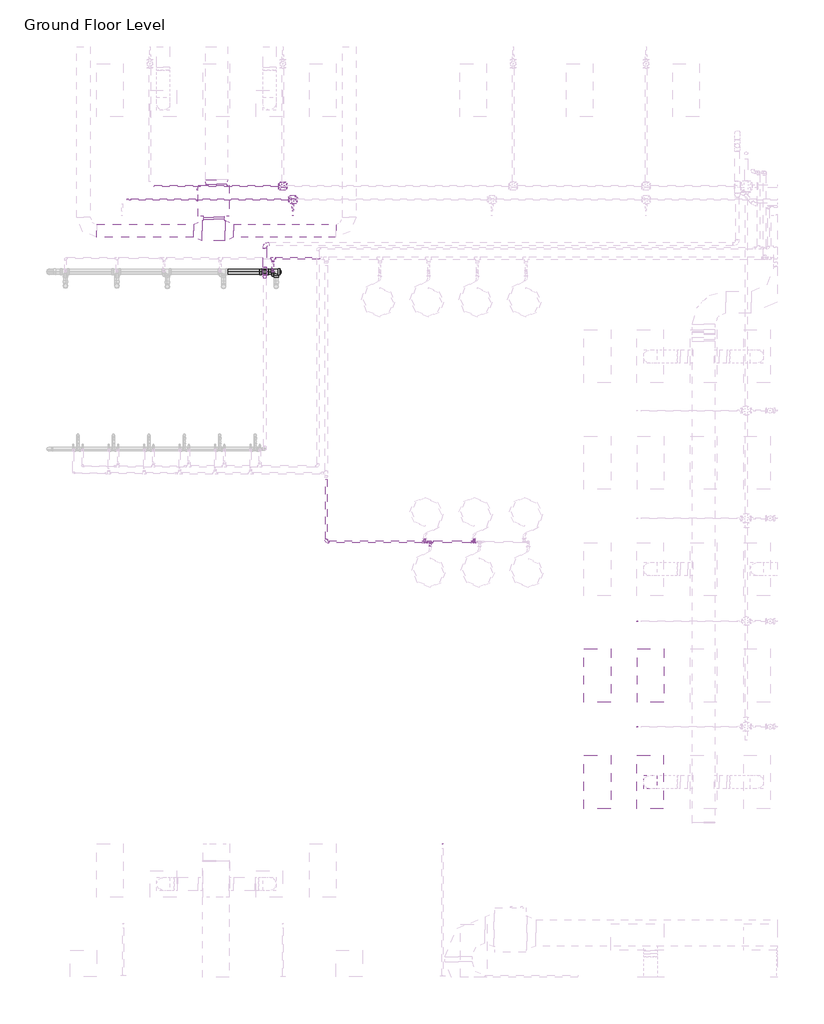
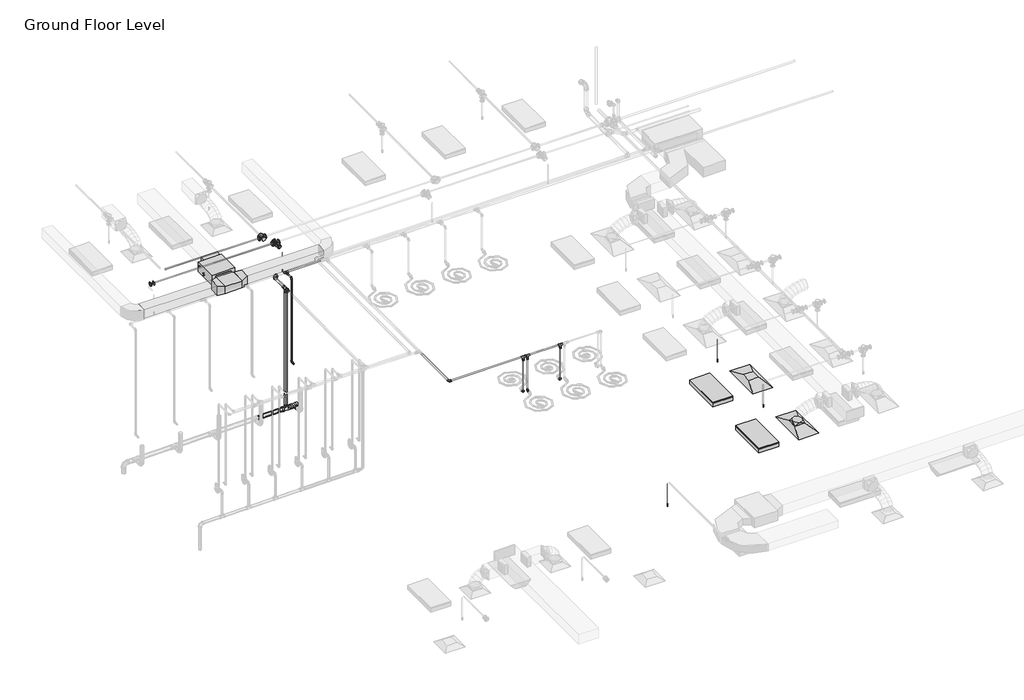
# One storey, part 42 of 66: 27 pipe segments, 24 pipe fittings, 5 duct fittings, 4 fire suppression terminals, 3 duct segments, 2 air terminals, 2 light fixtures, 1 proxy.
"""IFC4 building model written with IfcOpenShell, lengths in millimetres."""

from ifc_helpers import new_model, si_unit, point, frame, frame_2d, origin, place, context, project, spatial, polyline, circle_curve, trimmed, segment, composite_curve, outline, extrude, transform, mapped, element, save
from components import m_return_diffuser_1200x600_1200_x_600_face_300_x_300_d1983ef6, fcu_daikin_iu_bad131e0, m_rectangular_tee_standard_fa4de0e8, m_rectangular_transition_angle_45_degree_5a11b24e, m_rectangular_transition_angle_45_degree_6e5ad010, m_rectangular_to_round_transition_angle_45_degree_641efff0, m_sprinkler_dry_pendent_hosted_15_mm_dry_pendent_9bda8e11, m_sprinkler_pendent_15_mm_pendent_06fcbd8e, m_troffer_light_parabolic_rectangular1_0600x1200mm_4_lamp_86473d4a, m_bend_pvc_sch_40_dwv_standard_1fdc8943, m_plug_pvc_sch_40_dwv_standard_6c40de1c, m_reducer_flanged_cs_class_150_standard_ccf252ad, m_reducer_pvc_sch_40_dwv_standard_d6f2da47, m_tee_reducing_sanitary_pvc_sch_40_dwv_standard_b49161a9, m_tee_reducing_sanitary_pvc_sch_40_dwv_standard_35af4ecc, m_tee_reducing_sanitary_pvc_sch_40_dwv_standard_9cd1363b, m_tee_round_base_flanged_cs_class_150_standard_7e5987a1, standard_517a5a8d, standard_08ff6011, standard_d0d0b892, standard_69e4ce0e

model = new_model("IFC4")

# Units and contexts
model_context = context("Model", 3, world=origin())
ifc_project = project(units=[si_unit("LENGTHUNIT", "METRE", prefix="MILLI")], contexts=[model_context])

# Site, building, storey
site = spatial("IfcSite", under=ifc_project)
building = spatial("IfcBuilding", under=site)
storey = spatial("IfcBuildingStorey", under=building, Name="Ground Floor Level", Elevation=900.0)

# Air terminals
placement = place(None, origin())
m_return_diffuser_1200x600_1200_x_600_face_300_x_300_shape = m_return_diffuser_1200x600_1200_x_600_face_300_x_300_d1983ef6(model_context)
element("IfcAirTerminal", 1, ObjectType="M_Return Diffuser 1200x600 : 1200 x 600 Face 300 x 300 Connection", at=placement, inside=storey, context=model_context, shape_type="MappedRepresentation", body=[
    mapped(m_return_diffuser_1200x600_1200_x_600_face_300_x_300_shape, transform((-8137.2327605, 4035.2153534, 3650.0), x_axis=(0.0, 1.0, 0.0), y_axis=(-1.0, 0.0, 0.0), z_axis=(0.0, 0.0, 1.0))),
])
element("IfcAirTerminal", 2, ObjectType="M_Supply Diffuser 1200x600 : 1200 x 600 Face 300 x 300 Connection", at=placement, inside=storey, context=model_context, shape_type="MappedRepresentation", body=[
    mapped(m_return_diffuser_1200x600_1200_x_600_face_300_x_300_shape, transform((-8142.6846929, 1635.2153534, 3650.0), x_axis=(0.0, 1.0, 0.0), y_axis=(-1.0, 0.0, 0.0), z_axis=(0.0, 0.0, 1.0))),
])

# Proxy
fcu_daikin_iu_shape = fcu_daikin_iu_bad131e0(model_context)
element("IfcBuildingElementProxy", 3, Name="FCU-DAIKIN IU : 4.5kW, 230V/50Hz/1Ph", ObjectType="FCU-DAIKIN IU : 4.5kW, 230V/50Hz/1Ph", at=placement, inside=storey, context=model_context, shape_type="MappedRepresentation", body=[
    mapped(fcu_daikin_iu_shape, transform((-17997.2327605, 14745.2153534, 3934.0881511), x_axis=(-1.0, 0.0, 0.0), y_axis=(0.0, -1.0, 0.0), z_axis=(0.0, 0.0, 1.0))),
])

# Duct fittings
m_rectangular_tee_standard_shape = m_rectangular_tee_standard_fa4de0e8(model_context)
element("IfcDuctFitting", 4, ObjectType="M_Rectangular Tee : Standard", at=placement, inside=storey, context=model_context, shape_type="MappedRepresentation", body=[
    mapped(m_rectangular_tee_standard_shape, transform((-17997.2327605, 14069.8153534, 4075.2881511), x_axis=(-1.0, 0.0, 0.0), y_axis=(0.0, -1.0, 0.0), z_axis=(0.0, 0.0, 1.0))),
])
m_rectangular_transition_angle_45_degree_shape = m_rectangular_transition_angle_45_degree_5a11b24e(model_context)
element("IfcDuctFitting", 5, ObjectType="M_Rectangular Transition - Angle : 45 Degree", at=placement, inside=storey, context=model_context, shape_type="MappedRepresentation", body=[
    mapped(m_rectangular_transition_angle_45_degree_shape, transform((-17933.7327605, 15120.6153534, 4100.0006511), x_axis=(0.0, 1.0, 0.0), y_axis=(-1.0, 0.0, 0.0), z_axis=(0.0, 0.0, 1.0))),
])
m_rectangular_transition_angle_45_degree_2_shape = m_rectangular_transition_angle_45_degree_6e5ad010(model_context)
element("IfcDuctFitting", 6, ObjectType="M_Rectangular Transition - Angle : 45 Degree", at=placement, inside=storey, context=model_context, shape_type="MappedRepresentation", body=[
    mapped(m_rectangular_transition_angle_45_degree_2_shape, transform((-17741.2952605, 14069.8153534, 4075.2881511), x_axis=(1.0, 0.0, 0.0), y_axis=(0.0, 1.0, 0.0), z_axis=(0.0, 0.0, 1.0))),
])
element("IfcDuctFitting", 7, ObjectType="M_Rectangular Transition - Angle : 45 Degree", at=placement, inside=storey, context=model_context, shape_type="MappedRepresentation", body=[
    mapped(m_rectangular_transition_angle_45_degree_2_shape, transform((-18253.1702605, 14069.8153534, 4075.2881511), x_axis=(-1.0, 0.0, 0.0), y_axis=(0.0, -1.0, 0.0), z_axis=(0.0, 0.0, 1.0))),
])
m_rectangular_to_round_transition_angle_45_degree_shape = m_rectangular_to_round_transition_angle_45_degree_641efff0(model_context)
element("IfcDuctFitting", 8, ObjectType="M_Rectangular to Round Transition - Angle : 45 Degree", at=placement, inside=storey, context=model_context, shape_type="MappedRepresentation", body=[
    mapped(m_rectangular_to_round_transition_angle_45_degree_shape, transform((-8142.6846929, 1635.2153534, 3751.6), x_axis=(0.0, 0.0, 1.0), y_axis=(-1.0, 0.0, 0.0), z_axis=(0.0, -1.0, 0.0))),
])

# Duct segments
element("IfcDuctSegment", 9, ObjectType="Radius Elbows / Taps", at=placement, inside=storey, context=model_context, shape_type="SweptSolid", body=[
    extrude(outline(polyline([(-18228.1702605, 14369.8153534), (-17766.2952605, 14369.8153534), (-17766.2952605, 14325.7528534), (-18228.1702605, 14325.7528534), (-18228.1702605, 14369.8153534)])), frame((0.0, 0.0, 3968.1381511), z_axis=(0.0, 0.0, 1.0), x_axis=(1.0, 0.0, 0.0)), (0.0, 0.0, 1.0), 214.3),
])
element("IfcDuctSegment", 10, ObjectType="Radius Elbows / Taps", at=placement, inside=storey, context=model_context, shape_type="SweptSolid", body=[
    extrude(outline(polyline([(-17545.8948503, 13919.8153534), (-17545.8948503, 14219.8153534), (-15237.2327605, 14219.8153534), (-15237.2327605, 13919.8153534), (-17545.8948503, 13919.8153534)])), frame((0.0, 0.0, 3925.2881511), z_axis=(0.0, 0.0, 1.0), x_axis=(1.0, 0.0, 0.0)), (0.0, 0.0, 1.0), 300.0),
])
element("IfcDuctSegment", 11, ObjectType="Radius Elbows / Taps", at=placement, inside=storey, context=model_context, shape_type="SweptSolid", body=[
    extrude(outline(polyline([(-18448.5706707, 14219.8153534), (-18448.5706707, 13919.8153534), (-20637.2327605, 13919.8153534), (-20637.2327605, 14219.8153534), (-18448.5706707, 14219.8153534)])), frame((0.0, 0.0, 3925.2881511), z_axis=(0.0, 0.0, 1.0), x_axis=(1.0, 0.0, 0.0)), (0.0, 0.0, 1.0), 300.0),
])

# Fire suppression terminals
m_sprinkler_dry_pendent_hosted_15_mm_dry_pendent_shape = m_sprinkler_dry_pendent_hosted_15_mm_dry_pendent_9bda8e11(model_context)
element("IfcFireSuppressionTerminal", 12, ObjectType="M_Sprinkler - Dry - Pendent - Hosted : 15 mm Dry Pendent", at=placement, inside=storey, context=model_context, shape_type="MappedRepresentation", body=[
    mapped(m_sprinkler_dry_pendent_hosted_15_mm_dry_pendent_shape, transform((-8437.2327605, 5261.0372753, 3650.0), x_axis=(1.0, 0.0, 0.0), y_axis=(0.0, -1.0, 0.0), z_axis=(0.0, 0.0, -1.0))),
])
element("IfcFireSuppressionTerminal", 13, ObjectType="M_Sprinkler - Dry - Pendent - Hosted : 15 mm Dry Pendent", at=placement, inside=storey, context=model_context, shape_type="MappedRepresentation", body=[
    mapped(m_sprinkler_dry_pendent_hosted_15_mm_dry_pendent_shape, transform((-8437.2327605, 2881.5134565, 3650.0), x_axis=(1.0, 0.0, 0.0), y_axis=(0.0, -1.0, 0.0), z_axis=(0.0, 0.0, -1.0))),
])
element("IfcFireSuppressionTerminal", 14, ObjectType="M_Sprinkler - Dry - Pendent - Hosted : 15 mm Dry Pendent", at=placement, inside=storey, context=model_context, shape_type="MappedRepresentation", body=[
    mapped(m_sprinkler_dry_pendent_hosted_15_mm_dry_pendent_shape, transform((-12837.2327605, 235.2153534, 3650.0), x_axis=(1.0, 0.0, 0.0), y_axis=(0.0, -1.0, 0.0), z_axis=(0.0, 0.0, -1.0))),
])
m_sprinkler_pendent_15_mm_pendent_shape = m_sprinkler_pendent_15_mm_pendent_06fcbd8e(model_context)
element("IfcFireSuppressionTerminal", 15, ObjectType="M_Sprinkler - Pendent : 15 mm Pendent", at=placement, inside=storey, context=model_context, shape_type="MappedRepresentation", body=[
    mapped(m_sprinkler_pendent_15_mm_pendent_shape, transform((-16210.1138499, 14412.7243649, 3650.0), x_axis=(1.0, 0.0, 0.0), y_axis=(0.0, 1.0, 0.0), z_axis=(0.0, 0.0, 1.0))),
])

# Light fixtures
m_troffer_light_parabolic_rectangular1_0600x1200mm_4_lamp_shape = m_troffer_light_parabolic_rectangular1_0600x1200mm_4_lamp_86473d4a(model_context)
element("IfcLightFixture", 16, ObjectType="M_Troffer Light - Parabolic Rectangular1 : 0600x1200mm(4 Lamp) - 277V 2", at=placement, inside=storey, context=model_context, shape_type="MappedRepresentation", body=[
    mapped(m_troffer_light_parabolic_rectangular1_0600x1200mm_4_lamp_shape, transform((-9396.6986926, 4053.918855, 3650.0), x_axis=(0.0, 1.0, 0.0), y_axis=(-1.0, 0.0, 0.0), z_axis=(0.0, 0.0, 1.0))),
])
element("IfcLightFixture", 17, ObjectType="M_Troffer Light - Parabolic Rectangular1 : 0600x1200mm(4 Lamp) - 277V 2", at=placement, inside=storey, context=model_context, shape_type="MappedRepresentation", body=[
    mapped(m_troffer_light_parabolic_rectangular1_0600x1200mm_4_lamp_shape, transform((-9396.6986926, 1653.918855, 3650.0), x_axis=(0.0, 1.0, 0.0), y_axis=(-1.0, 0.0, 0.0), z_axis=(0.0, 0.0, 1.0))),
])

# Pipe fittings
m_bend_pvc_sch_40_dwv_standard_shape = m_bend_pvc_sch_40_dwv_standard_1fdc8943(model_context)
element("IfcPipeFitting", 18, ObjectType="M_Bend - PVC - Sch 40 - DWV : Standard", at=placement, inside=storey, context=model_context, shape_type="MappedRepresentation", body=[
    mapped(m_bend_pvc_sch_40_dwv_standard_shape, transform((-16844.3158637, 13768.8048932, 4050.2768363), x_axis=(-0.9999500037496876, 0.0, -0.009999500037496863), y_axis=(0.0, -1.0, 0.0), z_axis=(-0.009999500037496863, 0.0, 0.9999500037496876))),
])
m_plug_pvc_sch_40_dwv_standard_shape = m_plug_pvc_sch_40_dwv_standard_6c40de1c(model_context)
element("IfcPipeFitting", 19, ObjectType="M_Plug - PVC - Sch 40 - DWV : Standard", at=placement, inside=storey, context=model_context, shape_type="MappedRepresentation", body=[
    mapped(m_plug_pvc_sch_40_dwv_standard_shape, transform((-16497.5246709, 13143.7240477, 252.0903992), x_axis=(0.9999500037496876, 0.0, 0.009999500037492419), y_axis=(0.0, 1.0, 0.0), z_axis=(-0.009999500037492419, 0.0, 0.9999500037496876))),
])
m_reducer_flanged_cs_class_150_standard_shape = m_reducer_flanged_cs_class_150_standard_ccf252ad(model_context)
element("IfcPipeFitting", 20, ObjectType="M_Reducer - Flanged - CS - Class 150 : Standard", at=placement, inside=storey, context=model_context, shape_type="MappedRepresentation", body=[
    mapped(m_reducer_flanged_cs_class_150_standard_shape, transform((-19856.6717995, 14773.4681847, 4291.0943441), x_axis=(-1.0, 0.0, 0.0), y_axis=(0.0, -1.0, 0.0), z_axis=(0.0, 0.0, 1.0))),
])
element("IfcPipeFitting", 21, ObjectType="M_Reducer - Flanged - CS - Class 150 : Standard", at=placement, inside=storey, context=model_context, shape_type="MappedRepresentation", body=[
    mapped(m_reducer_flanged_cs_class_150_standard_shape, transform((-16210.1138499, 14672.759591, 4291.0943441), x_axis=(0.0, -1.0, 0.0), y_axis=(1.0, 0.0, 0.0), z_axis=(0.0, 0.0, 1.0))),
])
m_reducer_pvc_sch_40_dwv_standard_shape = m_reducer_pvc_sch_40_dwv_standard_d6f2da47(model_context)
element("IfcPipeFitting", 22, ObjectType="M_Reducer - PVC - Sch 40 - DWV : Standard", at=placement, inside=storey, context=model_context, shape_type="MappedRepresentation", body=[
    mapped(m_reducer_pvc_sch_40_dwv_standard_shape, transform((-16844.3158637, 13068.078397, 4049.9889294), x_axis=(0.0, -0.9999576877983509, -0.009199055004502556), y_axis=(1.0000000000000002, 0.0, 0.0), z_axis=(0.0, -0.009199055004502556, 0.9999576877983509))),
])
m_tee_reducing_sanitary_pvc_sch_40_dwv_standard_shape = m_tee_reducing_sanitary_pvc_sch_40_dwv_standard_b49161a9(model_context)
element("IfcPipeFitting", 23, ObjectType="M_Tee Reducing Sanitary - PVC - Sch 40 - DWV : Standard", at=placement, inside=storey, context=model_context, shape_type="MappedRepresentation", body=[
    mapped(m_tee_reducing_sanitary_pvc_sch_40_dwv_standard_shape, transform((-16586.4202262, 13143.7240477, 251.2014437), x_axis=(0.9999500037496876, 0.0, 0.009999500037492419), y_axis=(0.0, 1.0, 0.0), z_axis=(-0.009999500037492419, 0.0, 0.9999500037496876))),
])
m_tee_reducing_sanitary_pvc_sch_40_dwv_standard_2_shape = m_tee_reducing_sanitary_pvc_sch_40_dwv_standard_35af4ecc(model_context)
element("IfcPipeFitting", 24, ObjectType="M_Tee Reducing Sanitary - PVC - Sch 40 - DWV : Standard", at=placement, inside=storey, context=model_context, shape_type="MappedRepresentation", body=[
    mapped(m_tee_reducing_sanitary_pvc_sch_40_dwv_standard_2_shape, transform((-16844.3824695, 13143.7240477, 248.6218212), x_axis=(0.9999500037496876, 0.0, 0.00999950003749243), y_axis=(0.00999950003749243, 0.0, -0.9999500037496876), z_axis=(0.0, 1.0, 0.0))),
])
m_tee_reducing_sanitary_pvc_sch_40_dwv_standard_3_shape = m_tee_reducing_sanitary_pvc_sch_40_dwv_standard_9cd1363b(model_context)
element("IfcPipeFitting", 25, ObjectType="M_Tee Reducing Sanitary - PVC - Sch 40 - DWV : Standard", at=placement, inside=storey, context=model_context, shape_type="MappedRepresentation", body=[
    mapped(m_tee_reducing_sanitary_pvc_sch_40_dwv_standard_3_shape, transform((-16844.3158637, 13143.7240477, 4050.2768363), x_axis=(0.0, -1.0, 0.0), y_axis=(-2.9192257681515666e-06, 0.0, 0.9999999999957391), z_axis=(-0.9999999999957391, 0.0, -2.9192257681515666e-06))),
])
m_tee_round_base_flanged_cs_class_150_standard_shape = m_tee_round_base_flanged_cs_class_150_standard_7e5987a1(model_context)
element("IfcPipeFitting", 26, ObjectType="M_Tee Round Base - Flanged - CS - Class 150 : Standard", at=placement, inside=storey, context=model_context, shape_type="MappedRepresentation", body=[
    mapped(m_tee_round_base_flanged_cs_class_150_standard_shape, transform((-16210.1138499, 14773.4681847, 4291.0943441), x_axis=(-1.0, 0.0, 0.0), y_axis=(0.0, 1.0, 0.0), z_axis=(0.0, 0.0, -1.0))),
])
element("IfcPipeFitting", 27, ObjectType="M_Tee Round Base - Flanged - CS - Class 150 : Standard", at=placement, inside=storey, context=model_context, shape_type="MappedRepresentation", body=[
    mapped(m_tee_round_base_flanged_cs_class_150_standard_shape, transform((-16437.2327605, 15073.2009828, 4360.0), x_axis=(-1.0, 0.0, 0.0), y_axis=(0.0, -1.0, 0.0), z_axis=(0.0, 0.0, 1.0))),
])
standard_shape = standard_517a5a8d(model_context)
element("IfcPipeFitting", 28, ObjectType="M_Elbow - CPVC - Sch 40 : Standard", at=placement, inside=storey, context=model_context, shape_type="MappedRepresentation", body=[
    mapped(standard_shape, transform((-16659.8589924, 13149.9865561, 4315.0), x_axis=(0.0, 0.0, 1.0), y_axis=(0.0, 1.0, 0.0), z_axis=(-1.0, 0.0, 0.0))),
])
element("IfcPipeFitting", 29, ObjectType="M_Elbow - CPVC - Sch 40 : Standard", at=placement, inside=storey, context=model_context, shape_type="MappedRepresentation", body=[
    mapped(standard_shape, transform((-16659.8589924, 13149.9865561, 1655.0), x_axis=(0.0, 0.0, -1.0), y_axis=(0.0, -1.0, 0.0), z_axis=(-1.0, 0.0, 0.0))),
])
element("IfcPipeFitting", 30, ObjectType="M_Elbow - CPVC - Sch 40 : Standard", at=placement, inside=storey, context=model_context, shape_type="MappedRepresentation", body=[
    mapped(standard_shape, transform((-13107.2327605, 7049.9865561, 3200.0), x_axis=(0.0, 0.0, -1.0), y_axis=(0.0, -1.0, 0.0), z_axis=(-1.0, 0.0, 0.0))),
])
element("IfcPipeFitting", 31, ObjectType="M_Elbow - CPVC - Sch 40 : Standard", at=placement, inside=storey, context=model_context, shape_type="MappedRepresentation", body=[
    mapped(standard_shape, transform((-13232.2327605, 7049.9865561, 3200.0), x_axis=(0.0, 0.0, -1.0), y_axis=(0.0, 1.0, 0.0), z_axis=(1.0, 0.0, 0.0))),
])
element("IfcPipeFitting", 32, ObjectType="M_Elbow - CPVC - Sch 40 : Standard", at=placement, inside=storey, context=model_context, shape_type="MappedRepresentation", body=[
    mapped(standard_shape, transform((-12122.2327605, 7049.9865561, 3200.0), x_axis=(0.0, 0.0, -1.0), y_axis=(0.0, 1.0, 0.0), z_axis=(1.0, 0.0, 0.0))),
])
standard_2_shape = standard_08ff6011(model_context)
element("IfcPipeFitting", 33, ObjectType="M_Tee - CPVC - Sch 40 : Standard", at=placement, inside=storey, context=model_context, shape_type="MappedRepresentation", body=[
    mapped(standard_2_shape, transform((-16659.8589924, 13449.9865561, 4315.0), x_axis=(-1.0, 0.0, 0.0), y_axis=(0.0, 1.0, 0.0), z_axis=(0.0, 0.0, -1.0))),
])
element("IfcPipeFitting", 34, ObjectType="M_Tee - CPVC - Sch 40 : Standard", at=placement, inside=storey, context=model_context, shape_type="MappedRepresentation", body=[
    mapped(standard_2_shape, transform((-13107.2327605, 7049.9865561, 4315.0), x_axis=(-1.0, 0.0, 0.0), y_axis=(0.0, 0.0, 1.0), z_axis=(0.0, 1.0, 0.0))),
])
element("IfcPipeFitting", 35, ObjectType="M_Tee - CPVC - Sch 40 : Standard", at=placement, inside=storey, context=model_context, shape_type="MappedRepresentation", body=[
    mapped(standard_2_shape, transform((-13232.2327605, 7049.9865561, 4315.0), x_axis=(-1.0, 0.0, 0.0), y_axis=(0.0, 0.0, 1.0), z_axis=(0.0, 1.0, 0.0))),
])
element("IfcPipeFitting", 36, ObjectType="M_Tee - CPVC - Sch 40 : Standard", at=placement, inside=storey, context=model_context, shape_type="MappedRepresentation", body=[
    mapped(standard_2_shape, transform((-12122.2327605, 7049.9865561, 4315.0), x_axis=(-1.0, 0.0, 0.0), y_axis=(0.0, 0.0, 1.0), z_axis=(0.0, 1.0, 0.0))),
])
standard_3_shape = standard_d0d0b892(model_context)
element("IfcPipeFitting", 37, ObjectType="M_Coupling Reducing - CPVC - Sch 40 : Standard", at=placement, inside=storey, context=model_context, shape_type="MappedRepresentation", body=[
    mapped(standard_3_shape, transform((-16659.8589924, 13396.0115561, 4315.0), x_axis=(0.0, -1.0, 0.0), y_axis=(1.0, 0.0, 0.0), z_axis=(0.0, 0.0, 1.0))),
])
element("IfcPipeFitting", 38, ObjectType="M_Coupling Reducing - CPVC - Sch 40 : Standard", at=placement, inside=storey, context=model_context, shape_type="MappedRepresentation", body=[
    mapped(standard_3_shape, transform((-13107.2327605, 7049.9865561, 4261.025), x_axis=(0.0, 0.0, -1.0), y_axis=(1.0, 0.0, 0.0), z_axis=(0.0, -1.0, 0.0))),
])
element("IfcPipeFitting", 39, ObjectType="M_Coupling Reducing - CPVC - Sch 40 : Standard", at=placement, inside=storey, context=model_context, shape_type="MappedRepresentation", body=[
    mapped(standard_3_shape, transform((-13232.2327605, 7049.9865561, 4261.025), x_axis=(0.0, 0.0, -1.0), y_axis=(-1.0, 0.0, 0.0), z_axis=(0.0, 1.0, 0.0))),
])
element("IfcPipeFitting", 40, ObjectType="M_Coupling Reducing - CPVC - Sch 40 : Standard", at=placement, inside=storey, context=model_context, shape_type="MappedRepresentation", body=[
    mapped(standard_3_shape, transform((-12122.2327605, 7049.9865561, 4261.025), x_axis=(0.0, 0.0, -1.0), y_axis=(-1.0, 0.0, 0.0), z_axis=(0.0, 1.0, 0.0))),
])
standard_4_shape = standard_69e4ce0e(model_context)
element("IfcPipeFitting", 41, ObjectType="M_Elbow - CPVC - Sch 40 : Standard", at=placement, inside=storey, context=model_context, shape_type="MappedRepresentation", body=[
    mapped(standard_4_shape, transform((-15455.6408298, 7049.9865561, 4315.0), x_axis=(0.0, -1.0, 0.0), y_axis=(1.0, 0.0, 0.0), z_axis=(0.0, 0.0, 1.0))),
])

# Pipe segments
element("IfcPipeSegment", 42, ObjectType="CPVC", at=placement, inside=storey, context=model_context, shape_type="SweptSolid", body=[
    extrude(outline(composite_curve([segment(trimmed(circle_curve(frame_2d((1655.0, -16659.8589924)), 16.7005), [point((1655.0, -16676.5594924))], [point((1638.2995, -16659.8589924))], False, "CARTESIAN"), True, "CONTINUOUS"), segment(trimmed(circle_curve(frame_2d((1655.0, -16659.8589924)), 16.7005), [point((1638.2995, -16659.8589924))], [point((1655.0, -16643.1584924))], False, "CARTESIAN"), True, "CONTINUOUS"), segment(trimmed(circle_curve(frame_2d((1655.0, -16659.8589924)), 16.7005), [point((1655.0, -16643.1584924))], [point((1671.7005, -16659.8589924))], False, "CARTESIAN"), True, "CONTINUOUS"), segment(trimmed(circle_curve(frame_2d((1655.0, -16659.8589924)), 16.7005), [point((1671.7005, -16659.8589924))], [point((1655.0, -16676.5594924))], False, "CARTESIAN"), True, "CONTINUOUS")], self_intersect=False)), frame((0.0, 13045.2153534, 0.0), z_axis=(0.0, 1.0, 0.0), x_axis=(0.0, 0.0, 1.0)), (0.0, 0.0, 1.0), 61.5086528),
])
element("IfcPipeSegment", 43, ObjectType="CPVC", at=placement, inside=storey, context=model_context, shape_type="SweptSolid", body=[
    extrude(outline(composite_curve([segment(trimmed(circle_curve(frame_2d((-16659.8589924, 13149.9865561)), 16.7005), [point((-16676.5594924, 13149.9865561))], [point((-16659.8589924, 13166.6870561))], False, "CARTESIAN"), True, "CONTINUOUS"), segment(trimmed(circle_curve(frame_2d((-16659.8589924, 13149.9865561)), 16.7005), [point((-16659.8589924, 13166.6870561))], [point((-16643.1584924, 13149.9865561))], False, "CARTESIAN"), True, "CONTINUOUS"), segment(trimmed(circle_curve(frame_2d((-16659.8589924, 13149.9865561)), 16.7005), [point((-16643.1584924, 13149.9865561))], [point((-16659.8589924, 13133.2860561))], False, "CARTESIAN"), True, "CONTINUOUS"), segment(trimmed(circle_curve(frame_2d((-16659.8589924, 13149.9865561)), 16.7005), [point((-16659.8589924, 13133.2860561))], [point((-16676.5594924, 13149.9865561))], False, "CARTESIAN"), True, "CONTINUOUS")], self_intersect=False)), frame((0.0, 0.0, 1698.26255), z_axis=(0.0, 0.0, 1.0), x_axis=(1.0, 0.0, 0.0)), (0.0, 0.0, 1.0), 2573.4749),
])
element("IfcPipeSegment", 44, ObjectType="CPVC", at=placement, inside=storey, context=model_context, shape_type="SweptSolid", body=[
    extrude(outline(composite_curve([segment(trimmed(circle_curve(frame_2d((4315.0, -16659.8589924)), 16.7005), [point((4315.0, -16643.1584924))], [point((4331.7005, -16659.8589924))], False, "CARTESIAN"), True, "CONTINUOUS"), segment(trimmed(circle_curve(frame_2d((4315.0, -16659.8589924)), 16.7005), [point((4331.7005, -16659.8589924))], [point((4315.0, -16676.5594924))], False, "CARTESIAN"), True, "CONTINUOUS"), segment(trimmed(circle_curve(frame_2d((4315.0, -16659.8589924)), 16.7005), [point((4315.0, -16676.5594924))], [point((4298.2995, -16659.8589924))], False, "CARTESIAN"), True, "CONTINUOUS"), segment(trimmed(circle_curve(frame_2d((4315.0, -16659.8589924)), 16.7005), [point((4298.2995, -16659.8589924))], [point((4315.0, -16643.1584924))], False, "CARTESIAN"), True, "CONTINUOUS")], self_intersect=False)), frame((0.0, 13193.2491061, 0.0), z_axis=(0.0, 1.0, 0.0), x_axis=(0.0, 0.0, 1.0)), (0.0, 0.0, 1.0), 136.643575),
])
element("IfcPipeSegment", 45, ObjectType="CPVC", at=placement, inside=storey, context=model_context, shape_type="SweptSolid", body=[
    extrude(outline(composite_curve([segment(trimmed(circle_curve(frame_2d((4315.0, -15455.6408298)), 21.082), [point((4315.0, -15476.7228298))], [point((4293.918, -15455.6408298))], False, "CARTESIAN"), True, "CONTINUOUS"), segment(trimmed(circle_curve(frame_2d((4315.0, -15455.6408298)), 21.082), [point((4293.918, -15455.6408298))], [point((4315.0, -15434.5588298))], False, "CARTESIAN"), True, "CONTINUOUS"), segment(trimmed(circle_curve(frame_2d((4315.0, -15455.6408298)), 21.082), [point((4315.0, -15434.5588298))], [point((4336.082, -15455.6408298))], False, "CARTESIAN"), True, "CONTINUOUS"), segment(trimmed(circle_curve(frame_2d((4315.0, -15455.6408298)), 21.082), [point((4336.082, -15455.6408298))], [point((4315.0, -15476.7228298))], False, "CARTESIAN"), True, "CONTINUOUS")], self_intersect=False)), frame((0.0, 7107.9303061, 0.0), z_axis=(0.0, 1.0, 0.0), x_axis=(0.0, 0.0, 1.0)), (0.0, 0.0, 1.0), 1355.4879172),
])
element("IfcPipeSegment", 46, ObjectType="CPVC", at=placement, inside=storey, context=model_context, shape_type="SweptSolid", body=[
    extrude(outline(composite_curve([segment(trimmed(circle_curve(frame_2d((13449.9865561, 4315.0)), 21.082), [point((13428.9045561, 4315.0))], [point((13449.9865561, 4336.082))], False, "CARTESIAN"), True, "CONTINUOUS"), segment(trimmed(circle_curve(frame_2d((13449.9865561, 4315.0)), 21.082), [point((13449.9865561, 4336.082))], [point((13471.0685561, 4315.0))], False, "CARTESIAN"), True, "CONTINUOUS"), segment(trimmed(circle_curve(frame_2d((13449.9865561, 4315.0)), 21.082), [point((13471.0685561, 4315.0))], [point((13449.9865561, 4293.918))], False, "CARTESIAN"), True, "CONTINUOUS"), segment(trimmed(circle_curve(frame_2d((13449.9865561, 4315.0)), 21.082), [point((13449.9865561, 4293.918))], [point((13428.9045561, 4315.0))], False, "CARTESIAN"), True, "CONTINUOUS")], self_intersect=False)), frame((-16605.8839924, 0.0, 0.0), z_axis=(1.0, 0.0, 0.0), x_axis=(0.0, 1.0, 0.0)), (0.0, 0.0, 1.0), 998.2294126),
])
element("IfcPipeSegment", 47, ObjectType="CPVC", at=placement, inside=storey, context=model_context, shape_type="SweptSolid", body=[
    extrude(outline(composite_curve([segment(trimmed(circle_curve(frame_2d((3200.0, -13107.2327605)), 16.7005), [point((3200.0, -13123.9332605))], [point((3183.2995, -13107.2327605))], False, "CARTESIAN"), True, "CONTINUOUS"), segment(trimmed(circle_curve(frame_2d((3200.0, -13107.2327605)), 16.7005), [point((3183.2995, -13107.2327605))], [point((3200.0, -13090.5322605))], False, "CARTESIAN"), True, "CONTINUOUS"), segment(trimmed(circle_curve(frame_2d((3200.0, -13107.2327605)), 16.7005), [point((3200.0, -13090.5322605))], [point((3216.7005, -13107.2327605))], False, "CARTESIAN"), True, "CONTINUOUS"), segment(trimmed(circle_curve(frame_2d((3200.0, -13107.2327605)), 16.7005), [point((3216.7005, -13107.2327605))], [point((3200.0, -13123.9332605))], False, "CARTESIAN"), True, "CONTINUOUS")], self_intersect=False)), frame((0.0, 6956.8347997, 0.0), z_axis=(0.0, 1.0, 0.0), x_axis=(0.0, 0.0, 1.0)), (0.0, 0.0, 1.0), 49.8892064),
])
element("IfcPipeSegment", 48, ObjectType="CPVC", at=placement, inside=storey, context=model_context, shape_type="SweptSolid", body=[
    extrude(outline(composite_curve([segment(trimmed(circle_curve(frame_2d((-13107.2327605, 7049.9865561)), 16.7005), [point((-13090.5322605, 7049.9865561))], [point((-13107.2327605, 7033.2860561))], False, "CARTESIAN"), True, "CONTINUOUS"), segment(trimmed(circle_curve(frame_2d((-13107.2327605, 7049.9865561)), 16.7005), [point((-13107.2327605, 7033.2860561))], [point((-13123.9332605, 7049.9865561))], False, "CARTESIAN"), True, "CONTINUOUS"), segment(trimmed(circle_curve(frame_2d((-13107.2327605, 7049.9865561)), 16.7005), [point((-13123.9332605, 7049.9865561))], [point((-13107.2327605, 7066.6870561))], False, "CARTESIAN"), True, "CONTINUOUS"), segment(trimmed(circle_curve(frame_2d((-13107.2327605, 7049.9865561)), 16.7005), [point((-13107.2327605, 7066.6870561))], [point((-13090.5322605, 7049.9865561))], False, "CARTESIAN"), True, "CONTINUOUS")], self_intersect=False)), frame((0.0, 0.0, 3243.26255), z_axis=(0.0, 0.0, 1.0), x_axis=(1.0, 0.0, 0.0)), (0.0, 0.0, 1.0), 951.643575),
])
element("IfcPipeSegment", 49, ObjectType="CPVC", at=placement, inside=storey, context=model_context, shape_type="SweptSolid", body=[
    extrude(outline(composite_curve([segment(trimmed(circle_curve(frame_2d((7049.9865561, 4315.0)), 21.082), [point((7028.9045561, 4315.0))], [point((7049.9865561, 4336.082))], False, "CARTESIAN"), True, "CONTINUOUS"), segment(trimmed(circle_curve(frame_2d((7049.9865561, 4315.0)), 21.082), [point((7049.9865561, 4336.082))], [point((7071.0685561, 4315.0))], False, "CARTESIAN"), True, "CONTINUOUS"), segment(trimmed(circle_curve(frame_2d((7049.9865561, 4315.0)), 21.082), [point((7071.0685561, 4315.0))], [point((7049.9865561, 4293.918))], False, "CARTESIAN"), True, "CONTINUOUS"), segment(trimmed(circle_curve(frame_2d((7049.9865561, 4315.0)), 21.082), [point((7049.9865561, 4293.918))], [point((7028.9045561, 4315.0))], False, "CARTESIAN"), True, "CONTINUOUS")], self_intersect=False)), frame((-13178.2577605, 0.0, 0.0), z_axis=(1.0, 0.0, 0.0), x_axis=(0.0, 1.0, 0.0)), (0.0, 0.0, 1.0), 17.05),
])
element("IfcPipeSegment", 50, ObjectType="CPVC", at=placement, inside=storey, context=model_context, shape_type="SweptSolid", body=[
    extrude(outline(composite_curve([segment(trimmed(circle_curve(frame_2d((3200.0, -13232.2327605)), 16.7005), [point((3200.0, -13215.5322605))], [point((3216.7005, -13232.2327605))], False, "CARTESIAN"), True, "CONTINUOUS"), segment(trimmed(circle_curve(frame_2d((3200.0, -13232.2327605)), 16.7005), [point((3216.7005, -13232.2327605))], [point((3200.0, -13248.9332605))], False, "CARTESIAN"), True, "CONTINUOUS"), segment(trimmed(circle_curve(frame_2d((3200.0, -13232.2327605)), 16.7005), [point((3200.0, -13248.9332605))], [point((3183.2995, -13232.2327605))], False, "CARTESIAN"), True, "CONTINUOUS"), segment(trimmed(circle_curve(frame_2d((3200.0, -13232.2327605)), 16.7005), [point((3183.2995, -13232.2327605))], [point((3200.0, -13215.5322605))], False, "CARTESIAN"), True, "CONTINUOUS")], self_intersect=False)), frame((0.0, 7093.2491061, 0.0), z_axis=(0.0, 1.0, 0.0), x_axis=(0.0, 0.0, 1.0)), (0.0, 0.0, 1.0), 30.346801),
])
element("IfcPipeSegment", 51, ObjectType="CPVC", at=placement, inside=storey, context=model_context, shape_type="SweptSolid", body=[
    extrude(outline(composite_curve([segment(trimmed(circle_curve(frame_2d((-13232.2327605, 7049.9865561)), 16.7005), [point((-13215.5322605, 7049.9865561))], [point((-13232.2327605, 7033.2860561))], False, "CARTESIAN"), True, "CONTINUOUS"), segment(trimmed(circle_curve(frame_2d((-13232.2327605, 7049.9865561)), 16.7005), [point((-13232.2327605, 7033.2860561))], [point((-13248.9332605, 7049.9865561))], False, "CARTESIAN"), True, "CONTINUOUS"), segment(trimmed(circle_curve(frame_2d((-13232.2327605, 7049.9865561)), 16.7005), [point((-13248.9332605, 7049.9865561))], [point((-13232.2327605, 7066.6870561))], False, "CARTESIAN"), True, "CONTINUOUS"), segment(trimmed(circle_curve(frame_2d((-13232.2327605, 7049.9865561)), 16.7005), [point((-13232.2327605, 7066.6870561))], [point((-13215.5322605, 7049.9865561))], False, "CARTESIAN"), True, "CONTINUOUS")], self_intersect=False)), frame((0.0, 0.0, 3243.26255), z_axis=(0.0, 0.0, 1.0), x_axis=(1.0, 0.0, 0.0)), (0.0, 0.0, 1.0), 951.643575),
])
element("IfcPipeSegment", 52, ObjectType="CPVC", at=placement, inside=storey, context=model_context, shape_type="SweptSolid", body=[
    extrude(outline(composite_curve([segment(trimmed(circle_curve(frame_2d((7049.9865561, 4315.0)), 21.082), [point((7028.9045561, 4315.0))], [point((7049.9865561, 4336.082))], False, "CARTESIAN"), True, "CONTINUOUS"), segment(trimmed(circle_curve(frame_2d((7049.9865561, 4315.0)), 21.082), [point((7049.9865561, 4336.082))], [point((7071.0685561, 4315.0))], False, "CARTESIAN"), True, "CONTINUOUS"), segment(trimmed(circle_curve(frame_2d((7049.9865561, 4315.0)), 21.082), [point((7071.0685561, 4315.0))], [point((7049.9865561, 4293.918))], False, "CARTESIAN"), True, "CONTINUOUS"), segment(trimmed(circle_curve(frame_2d((7049.9865561, 4315.0)), 21.082), [point((7049.9865561, 4293.918))], [point((7028.9045561, 4315.0))], False, "CARTESIAN"), True, "CONTINUOUS")], self_intersect=False)), frame((-15397.6970798, 0.0, 0.0), z_axis=(1.0, 0.0, 0.0), x_axis=(0.0, 1.0, 0.0)), (0.0, 0.0, 1.0), 2111.4893193),
])
element("IfcPipeSegment", 53, ObjectType="CPVC", at=placement, inside=storey, context=model_context, shape_type="SweptSolid", body=[
    extrude(outline(composite_curve([segment(trimmed(circle_curve(frame_2d((3200.0, -12122.2327605)), 16.7005), [point((3200.0, -12105.5322605))], [point((3216.7005, -12122.2327605))], False, "CARTESIAN"), True, "CONTINUOUS"), segment(trimmed(circle_curve(frame_2d((3200.0, -12122.2327605)), 16.7005), [point((3216.7005, -12122.2327605))], [point((3200.0, -12138.9332605))], False, "CARTESIAN"), True, "CONTINUOUS"), segment(trimmed(circle_curve(frame_2d((3200.0, -12122.2327605)), 16.7005), [point((3200.0, -12138.9332605))], [point((3183.2995, -12122.2327605))], False, "CARTESIAN"), True, "CONTINUOUS"), segment(trimmed(circle_curve(frame_2d((3200.0, -12122.2327605)), 16.7005), [point((3183.2995, -12122.2327605))], [point((3200.0, -12105.5322605))], False, "CARTESIAN"), True, "CONTINUOUS")], self_intersect=False)), frame((0.0, 7093.2491061, 0.0), z_axis=(0.0, 1.0, 0.0), x_axis=(0.0, 0.0, 1.0)), (0.0, 0.0, 1.0), 30.346801),
])
element("IfcPipeSegment", 54, ObjectType="CPVC", at=placement, inside=storey, context=model_context, shape_type="SweptSolid", body=[
    extrude(outline(composite_curve([segment(trimmed(circle_curve(frame_2d((-12122.2327605, 7049.9865561)), 16.7005), [point((-12105.5322605, 7049.9865561))], [point((-12122.2327605, 7033.2860561))], False, "CARTESIAN"), True, "CONTINUOUS"), segment(trimmed(circle_curve(frame_2d((-12122.2327605, 7049.9865561)), 16.7005), [point((-12122.2327605, 7033.2860561))], [point((-12138.9332605, 7049.9865561))], False, "CARTESIAN"), True, "CONTINUOUS"), segment(trimmed(circle_curve(frame_2d((-12122.2327605, 7049.9865561)), 16.7005), [point((-12138.9332605, 7049.9865561))], [point((-12122.2327605, 7066.6870561))], False, "CARTESIAN"), True, "CONTINUOUS"), segment(trimmed(circle_curve(frame_2d((-12122.2327605, 7049.9865561)), 16.7005), [point((-12122.2327605, 7066.6870561))], [point((-12105.5322605, 7049.9865561))], False, "CARTESIAN"), True, "CONTINUOUS")], self_intersect=False)), frame((0.0, 0.0, 3243.26255), z_axis=(0.0, 0.0, 1.0), x_axis=(1.0, 0.0, 0.0)), (0.0, 0.0, 1.0), 951.643575),
])
element("IfcPipeSegment", 55, ObjectType="CPVC", at=placement, inside=storey, context=model_context, shape_type="SweptSolid", body=[
    extrude(outline(composite_curve([segment(trimmed(circle_curve(frame_2d((7049.9865561, 4315.0)), 21.082), [point((7028.9045561, 4315.0))], [point((7049.9865561, 4336.082))], False, "CARTESIAN"), True, "CONTINUOUS"), segment(trimmed(circle_curve(frame_2d((7049.9865561, 4315.0)), 21.082), [point((7049.9865561, 4336.082))], [point((7071.0685561, 4315.0))], False, "CARTESIAN"), True, "CONTINUOUS"), segment(trimmed(circle_curve(frame_2d((7049.9865561, 4315.0)), 21.082), [point((7071.0685561, 4315.0))], [point((7049.9865561, 4293.918))], False, "CARTESIAN"), True, "CONTINUOUS"), segment(trimmed(circle_curve(frame_2d((7049.9865561, 4315.0)), 21.082), [point((7049.9865561, 4293.918))], [point((7028.9045561, 4315.0))], False, "CARTESIAN"), True, "CONTINUOUS")], self_intersect=False)), frame((-13053.2577605, 0.0, 0.0), z_axis=(1.0, 0.0, 0.0), x_axis=(0.0, 1.0, 0.0)), (0.0, 0.0, 1.0), 877.05),
])
element("IfcPipeSegment", 56, ObjectType="CPVC", at=placement, inside=storey, context=model_context, shape_type="SweptSolid", body=[
    extrude(outline(composite_curve([segment(trimmed(circle_curve(frame_2d((7049.9865561, 4315.0)), 21.082), [point((7028.9045561, 4315.0))], [point((7049.9865561, 4336.082))], False, "CARTESIAN"), True, "CONTINUOUS"), segment(trimmed(circle_curve(frame_2d((7049.9865561, 4315.0)), 21.082), [point((7049.9865561, 4336.082))], [point((7071.0685561, 4315.0))], False, "CARTESIAN"), True, "CONTINUOUS"), segment(trimmed(circle_curve(frame_2d((7049.9865561, 4315.0)), 21.082), [point((7071.0685561, 4315.0))], [point((7049.9865561, 4293.918))], False, "CARTESIAN"), True, "CONTINUOUS"), segment(trimmed(circle_curve(frame_2d((7049.9865561, 4315.0)), 21.082), [point((7049.9865561, 4293.918))], [point((7028.9045561, 4315.0))], False, "CARTESIAN"), True, "CONTINUOUS")], self_intersect=False)), frame((-12068.2577605, 0.0, 0.0), z_axis=(1.0, 0.0, 0.0), x_axis=(0.0, 1.0, 0.0)), (0.0, 0.0, 1.0), 17.05),
])
element("IfcPipeSegment", 57, ObjectType="PVC - DWV", at=placement, inside=storey, context=model_context, shape_type="SweptSolid", body=[
    extrude(outline(composite_curve([segment(trimmed(circle_curve(frame_2d((0.0, -57.15)), 57.15), [point((0.0, 0.0))], [point((57.15, -57.15))], False, "CARTESIAN"), True, "CONTINUOUS"), segment(trimmed(circle_curve(frame_2d((0.0, -57.15)), 57.15), [point((57.15, -57.15))], [point((0.0, -114.3))], False, "CARTESIAN"), True, "CONTINUOUS"), segment(trimmed(circle_curve(frame_2d((0.0, -57.15)), 57.15), [point((0.0, -114.3))], [point((-57.15, -57.15))], False, "CARTESIAN"), True, "CONTINUOUS"), segment(trimmed(circle_curve(frame_2d((0.0, -57.15)), 57.15), [point((-57.15, -57.15))], [point((0.0, 0.0))], False, "CARTESIAN"), True, "CONTINUOUS")], self_intersect=False)), frame((-17686.9373542, 13200.8740477, 240.1962724), z_axis=(0.9999500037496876, 0.0, 0.009999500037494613), x_axis=(0.009999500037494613, 0.0, -0.9999500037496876)), (0.0, 0.0, 1.0), 730.9371051),
])
element("IfcPipeSegment", 58, ObjectType="PVC - DWV", at=placement, inside=storey, context=model_context, shape_type="SweptSolid", body=[
    extrude(outline(composite_curve([segment(trimmed(circle_curve(frame_2d((0.0, 36.5125)), 36.5125), [point((-36.5125, 36.5125))], [point((0.0, 73.025))], False, "CARTESIAN"), True, "CONTINUOUS"), segment(trimmed(circle_curve(frame_2d((0.0, 36.5125)), 36.5125), [point((0.0, 73.025))], [point((36.5125, 36.5125))], False, "CARTESIAN"), True, "CONTINUOUS"), segment(trimmed(circle_curve(frame_2d((0.0, 36.5125)), 36.5125), [point((36.5125, 36.5125))], [point((0.0, 0.0))], False, "CARTESIAN"), True, "CONTINUOUS"), segment(trimmed(circle_curve(frame_2d((0.0, 36.5125)), 36.5125), [point((0.0, 0.0))], [point((-36.5125, 36.5125))], False, "CARTESIAN"), True, "CONTINUOUS")], self_intersect=False)), frame((-16844.3166754, 13107.2115477, 367.13979), z_axis=(3.079824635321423e-07, 0.0, 0.9999999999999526), x_axis=(0.9999999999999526, 0.0, -3.079824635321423e-07)), (0.0, 0.0, 1.0), 3583.1690776),
])
element("IfcPipeSegment", 59, ObjectType="PVC - DWV", at=placement, inside=storey, context=model_context, shape_type="SweptSolid", body=[
    extrude(outline(composite_curve([segment(trimmed(circle_curve(frame_2d((0.0, -57.15)), 57.15), [point((0.0, 0.0))], [point((57.15, -57.15))], False, "CARTESIAN"), True, "CONTINUOUS"), segment(trimmed(circle_curve(frame_2d((0.0, -57.15)), 57.15), [point((57.15, -57.15))], [point((0.0, -114.3))], False, "CARTESIAN"), True, "CONTINUOUS"), segment(trimmed(circle_curve(frame_2d((0.0, -57.15)), 57.15), [point((0.0, -114.3))], [point((-57.15, -57.15))], False, "CARTESIAN"), True, "CONTINUOUS"), segment(trimmed(circle_curve(frame_2d((0.0, -57.15)), 57.15), [point((-57.15, -57.15))], [point((0.0, 0.0))], False, "CARTESIAN"), True, "CONTINUOUS")], self_intersect=False)), frame((-16755.9725021, 13200.8740477, 249.5059209), z_axis=(0.9999500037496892, 0.0, 0.009999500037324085), x_axis=(0.009999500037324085, 0.0, -0.9999500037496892)), (0.0, 0.0, 1.0), 48.9107533),
])
element("IfcPipeSegment", 60, ObjectType="PVC - DWV", at=placement, inside=storey, context=model_context, shape_type="SweptSolid", body=[
    extrude(outline(composite_curve([segment(trimmed(circle_curve(frame_2d((4050.2768363, -16844.3158637)), 36.5125), [point((4050.2768363, -16807.8033637))], [point((4086.7893363, -16844.3158637))], False, "CARTESIAN"), True, "CONTINUOUS"), segment(trimmed(circle_curve(frame_2d((4050.2768363, -16844.3158637)), 36.5125), [point((4086.7893363, -16844.3158637))], [point((4050.2768363, -16880.8283637))], False, "CARTESIAN"), True, "CONTINUOUS"), segment(trimmed(circle_curve(frame_2d((4050.2768363, -16844.3158637)), 36.5125), [point((4050.2768363, -16880.8283637))], [point((4013.7643363, -16844.3158637))], False, "CARTESIAN"), True, "CONTINUOUS"), segment(trimmed(circle_curve(frame_2d((4050.2768363, -16844.3158637)), 36.5125), [point((4013.7643363, -16844.3158637))], [point((4050.2768363, -16807.8033637))], False, "CARTESIAN"), True, "CONTINUOUS")], self_intersect=False)), frame((0.0, 13241.5371665, 0.0), z_axis=(0.0, 1.0, 0.0), x_axis=(0.0, 0.0, 1.0)), (0.0, 0.0, 1.0), 428.2536642),
])
element("IfcPipeSegment", 61, ObjectType="PVC - DWV", at=placement, inside=storey, context=model_context, shape_type="SweptSolid", body=[
    extrude(outline(composite_curve([segment(trimmed(circle_curve(frame_2d((4049.9889294, -16844.3158637)), 36.5125), [point((4049.9889294, -16880.8283637))], [point((4013.4764294, -16844.3158637))], False, "CARTESIAN"), True, "CONTINUOUS"), segment(trimmed(circle_curve(frame_2d((4049.9889294, -16844.3158637)), 36.5125), [point((4013.4764294, -16844.3158637))], [point((4049.9889294, -16807.8033637))], False, "CARTESIAN"), True, "CONTINUOUS"), segment(trimmed(circle_curve(frame_2d((4049.9889294, -16844.3158637)), 36.5125), [point((4049.9889294, -16807.8033637))], [point((4086.5014294, -16844.3158637))], False, "CARTESIAN"), True, "CONTINUOUS"), segment(trimmed(circle_curve(frame_2d((4049.9889294, -16844.3158637)), 36.5125), [point((4086.5014294, -16844.3158637))], [point((4049.9889294, -16880.8283637))], False, "CARTESIAN"), True, "CONTINUOUS")], self_intersect=False)), frame((0.0, 13068.078397, 0.0), z_axis=(0.0, 1.0, 0.0), x_axis=(0.0, 0.0, 1.0)), (0.0, 0.0, 1.0), 4.2961132),
])
element("IfcPipeSegment", 62, ObjectType="Steel flanged", at=placement, inside=storey, context=model_context, shape_type="SweptSolid", body=[
    extrude(outline(composite_curve([segment(trimmed(circle_curve(frame_2d((-16210.1138499, 14412.7243649)), 10.668), [point((-16220.7818499, 14412.7243649))], [point((-16210.1138499, 14423.3923649))], False, "CARTESIAN"), True, "CONTINUOUS"), segment(trimmed(circle_curve(frame_2d((-16210.1138499, 14412.7243649)), 10.668), [point((-16210.1138499, 14423.3923649))], [point((-16199.4458499, 14412.7243649))], False, "CARTESIAN"), True, "CONTINUOUS"), segment(trimmed(circle_curve(frame_2d((-16210.1138499, 14412.7243649)), 10.668), [point((-16199.4458499, 14412.7243649))], [point((-16210.1138499, 14402.0563649))], False, "CARTESIAN"), True, "CONTINUOUS"), segment(trimmed(circle_curve(frame_2d((-16210.1138499, 14412.7243649)), 10.668), [point((-16210.1138499, 14402.0563649))], [point((-16220.7818499, 14412.7243649))], False, "CARTESIAN"), True, "CONTINUOUS")], self_intersect=False)), frame((0.0, 0.0, 3650.0), z_axis=(0.0, 0.0, 1.0), x_axis=(1.0, 0.0, 0.0)), (0.0, 0.0, 1.0), 548.2668816),
])
element("IfcPipeSegment", 63, ObjectType="Steel flanged", at=placement, inside=storey, context=model_context, shape_type="SweptSolid", body=[
    extrude(outline(composite_curve([segment(trimmed(circle_curve(frame_2d((4291.0943441, -16210.1138499)), 10.668), [point((4291.0943441, -16199.4458499))], [point((4301.7623441, -16210.1138499))], False, "CARTESIAN"), True, "CONTINUOUS"), segment(trimmed(circle_curve(frame_2d((4291.0943441, -16210.1138499)), 10.668), [point((4301.7623441, -16210.1138499))], [point((4291.0943441, -16220.7818499))], False, "CARTESIAN"), True, "CONTINUOUS"), segment(trimmed(circle_curve(frame_2d((4291.0943441, -16210.1138499)), 10.668), [point((4291.0943441, -16220.7818499))], [point((4280.4263441, -16210.1138499))], False, "CARTESIAN"), True, "CONTINUOUS"), segment(trimmed(circle_curve(frame_2d((4291.0943441, -16210.1138499)), 10.668), [point((4280.4263441, -16210.1138499))], [point((4291.0943441, -16199.4458499))], False, "CARTESIAN"), True, "CONTINUOUS")], self_intersect=False)), frame((0.0, 14505.7329586, 0.0), z_axis=(0.0, 1.0, 0.0), x_axis=(0.0, 0.0, 1.0)), (0.0, 0.0, 1.0), 53.0266324),
])
element("IfcPipeSegment", 64, ObjectType="Steel flanged", at=placement, inside=storey, context=model_context, shape_type="SweptSolid", body=[
    extrude(outline(composite_curve([segment(trimmed(circle_curve(frame_2d((14773.4681847, 4291.0943441)), 16.7005), [point((14756.7676847, 4291.0943441))], [point((14773.4681847, 4307.7948441))], False, "CARTESIAN"), True, "CONTINUOUS"), segment(trimmed(circle_curve(frame_2d((14773.4681847, 4291.0943441)), 16.7005), [point((14773.4681847, 4307.7948441))], [point((14790.1686847, 4291.0943441))], False, "CARTESIAN"), True, "CONTINUOUS"), segment(trimmed(circle_curve(frame_2d((14773.4681847, 4291.0943441)), 16.7005), [point((14790.1686847, 4291.0943441))], [point((14773.4681847, 4274.3938441))], False, "CARTESIAN"), True, "CONTINUOUS"), segment(trimmed(circle_curve(frame_2d((14773.4681847, 4291.0943441)), 16.7005), [point((14773.4681847, 4274.3938441))], [point((14756.7676847, 4291.0943441))], False, "CARTESIAN"), True, "CONTINUOUS")], self_intersect=False)), frame((-19856.6717995, 0.0, 0.0), z_axis=(1.0, 0.0, 0.0), x_axis=(0.0, 1.0, 0.0)), (0.0, 0.0, 1.0), 3545.8493558),
])
element("IfcPipeSegment", 65, ObjectType="Steel flanged", at=placement, inside=storey, context=model_context, shape_type="SweptSolid", body=[
    extrude(outline(composite_curve([segment(trimmed(circle_curve(frame_2d((15073.2009828, 4360.0)), 16.7005), [point((15056.5004828, 4360.0))], [point((15073.2009828, 4376.7005))], False, "CARTESIAN"), True, "CONTINUOUS"), segment(trimmed(circle_curve(frame_2d((15073.2009828, 4360.0)), 16.7005), [point((15073.2009828, 4376.7005))], [point((15089.9014828, 4360.0))], False, "CARTESIAN"), True, "CONTINUOUS"), segment(trimmed(circle_curve(frame_2d((15073.2009828, 4360.0)), 16.7005), [point((15089.9014828, 4360.0))], [point((15073.2009828, 4343.2995))], False, "CARTESIAN"), True, "CONTINUOUS"), segment(trimmed(circle_curve(frame_2d((15073.2009828, 4360.0)), 16.7005), [point((15073.2009828, 4343.2995))], [point((15056.5004828, 4360.0))], False, "CARTESIAN"), True, "CONTINUOUS")], self_intersect=False)), frame((-19336.5241668, 0.0, 0.0), z_axis=(1.0, 0.0, 0.0), x_axis=(0.0, 1.0, 0.0)), (0.0, 0.0, 1.0), 2798.5828125),
])
element("IfcPipeSegment", 66, ObjectType="Steel flanged", at=placement, inside=storey, context=model_context, shape_type="SweptSolid", body=[
    extrude(outline(composite_curve([segment(trimmed(circle_curve(frame_2d((-8437.2327605, 5261.0372753)), 10.668), [point((-8447.9007605, 5261.0372753))], [point((-8437.2327605, 5271.7052753))], False, "CARTESIAN"), True, "CONTINUOUS"), segment(trimmed(circle_curve(frame_2d((-8437.2327605, 5261.0372753)), 10.668), [point((-8437.2327605, 5271.7052753))], [point((-8426.5647605, 5261.0372753))], False, "CARTESIAN"), True, "CONTINUOUS"), segment(trimmed(circle_curve(frame_2d((-8437.2327605, 5261.0372753)), 10.668), [point((-8426.5647605, 5261.0372753))], [point((-8437.2327605, 5250.3692753))], False, "CARTESIAN"), True, "CONTINUOUS"), segment(trimmed(circle_curve(frame_2d((-8437.2327605, 5261.0372753)), 10.668), [point((-8437.2327605, 5250.3692753))], [point((-8447.9007605, 5261.0372753))], False, "CARTESIAN"), True, "CONTINUOUS")], self_intersect=False)), frame((0.0, 0.0, 3650.0), z_axis=(0.0, 0.0, 1.0), x_axis=(1.0, 0.0, 0.0)), (0.0, 0.0, 1.0), 616.9914062),
])
element("IfcPipeSegment", 67, ObjectType="Steel flanged", at=placement, inside=storey, context=model_context, shape_type="SweptSolid", body=[
    extrude(outline(composite_curve([segment(trimmed(circle_curve(frame_2d((-8437.2327605, 2881.5134565)), 10.668), [point((-8447.9007605, 2881.5134565))], [point((-8437.2327605, 2892.1814565))], False, "CARTESIAN"), True, "CONTINUOUS"), segment(trimmed(circle_curve(frame_2d((-8437.2327605, 2881.5134565)), 10.668), [point((-8437.2327605, 2892.1814565))], [point((-8426.5647605, 2881.5134565))], False, "CARTESIAN"), True, "CONTINUOUS"), segment(trimmed(circle_curve(frame_2d((-8437.2327605, 2881.5134565)), 10.668), [point((-8426.5647605, 2881.5134565))], [point((-8437.2327605, 2870.8454565))], False, "CARTESIAN"), True, "CONTINUOUS"), segment(trimmed(circle_curve(frame_2d((-8437.2327605, 2881.5134565)), 10.668), [point((-8437.2327605, 2870.8454565))], [point((-8447.9007605, 2881.5134565))], False, "CARTESIAN"), True, "CONTINUOUS")], self_intersect=False)), frame((0.0, 0.0, 3650.0), z_axis=(0.0, 0.0, 1.0), x_axis=(1.0, 0.0, 0.0)), (0.0, 0.0, 1.0), 616.9914062),
])
element("IfcPipeSegment", 68, ObjectType="Steel flanged", at=placement, inside=storey, context=model_context, shape_type="SweptSolid", body=[
    extrude(outline(composite_curve([segment(trimmed(circle_curve(frame_2d((-12837.2327605, 235.2153534)), 10.668), [point((-12847.9007605, 235.2153534))], [point((-12837.2327605, 245.8833534))], False, "CARTESIAN"), True, "CONTINUOUS"), segment(trimmed(circle_curve(frame_2d((-12837.2327605, 235.2153534)), 10.668), [point((-12837.2327605, 245.8833534))], [point((-12826.5647605, 235.2153534))], False, "CARTESIAN"), True, "CONTINUOUS"), segment(trimmed(circle_curve(frame_2d((-12837.2327605, 235.2153534)), 10.668), [point((-12826.5647605, 235.2153534))], [point((-12837.2327605, 224.5473534))], False, "CARTESIAN"), True, "CONTINUOUS"), segment(trimmed(circle_curve(frame_2d((-12837.2327605, 235.2153534)), 10.668), [point((-12837.2327605, 224.5473534))], [point((-12847.9007605, 235.2153534))], False, "CARTESIAN"), True, "CONTINUOUS")], self_intersect=False)), frame((0.0, 0.0, 3650.0), z_axis=(0.0, 0.0, 1.0), x_axis=(1.0, 0.0, 0.0)), (0.0, 0.0, 1.0), 616.9914062),
])

save(model, "model.ifc")
